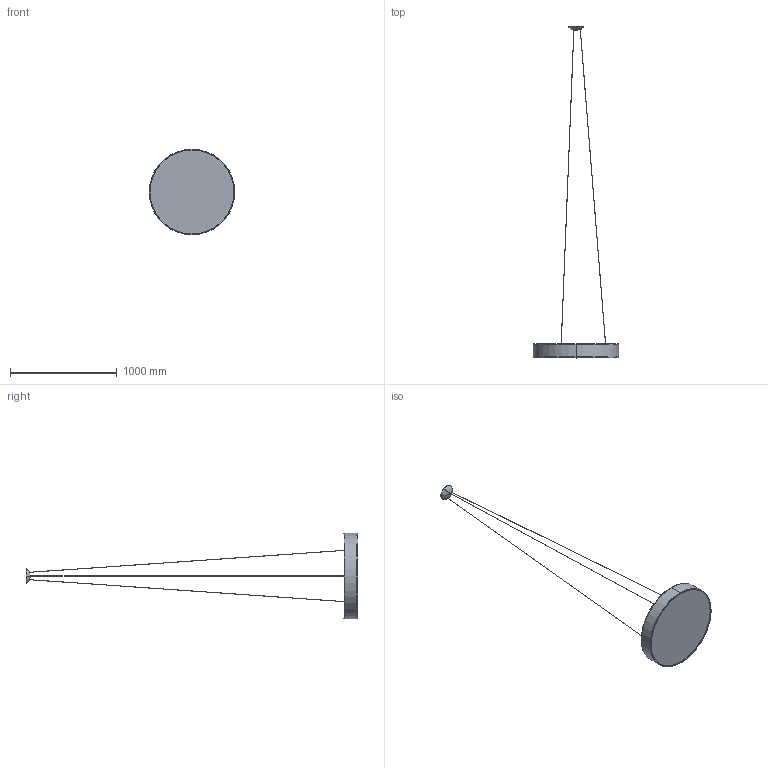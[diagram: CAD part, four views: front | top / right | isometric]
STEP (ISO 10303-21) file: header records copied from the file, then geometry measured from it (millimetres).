
FILE_DESCRIPTION (( 'STEP AP203' ), '1' );
FILE_NAME ('SPTES080COXXXXX-PER 3D.STEP', '2025-06-25T10:54:50', ( '' ), ( '' ), 'SwSTEP 2.0', 'SolidWorks 2024', '' );
FILE_SCHEMA (( 'CONFIG_CONTROL_DESIGN' ));
Length unit declared in the file: millimetre
Products named in the file (8): SPTES080COXXXXX-PER 3D; WSCA01193000B2830B; TSPTESSYC80DWBC; RIVESTIMENTO PARALUME Ø800; WSCM2J0001-0028-00; MSPTESSYØ80-LED; WSASS-000000001-28; PSPPLTESSY80H13COT
Assembly tree (9 placements, depth 4):
  SPTES080COXXXXX-PER 3D
    PSPPLTESSY80H13COT
      RIVESTIMENTO PARALUME Ø800
    MSPTESSYØ80-LED
      WSCA01193000B2830B  x3
      WSASS-000000001-28
        WSCM2J0001-0028-00
    TSPTESSYC80DWBC
Bounding box: 802 x 3113.98 x 802 mm (x, y, z)
Volume: 653543.4 mm3; surface area: 2548022 mm2
Topology: 8 solids, 8 shells, 113 faces, 254 edges, 156 vertices
Faces by surface type: plane 40, torus 38, cylinder 29, cone 6
Entity records: 4059 total; most frequent: CARTESIAN_POINT 841, DIRECTION 546, ORIENTED_EDGE 460, AXIS2_PLACEMENT_3D 234, EDGE_CURVE 230, VERTEX_POINT 140, CIRCLE 120, EDGE_LOOP 106
